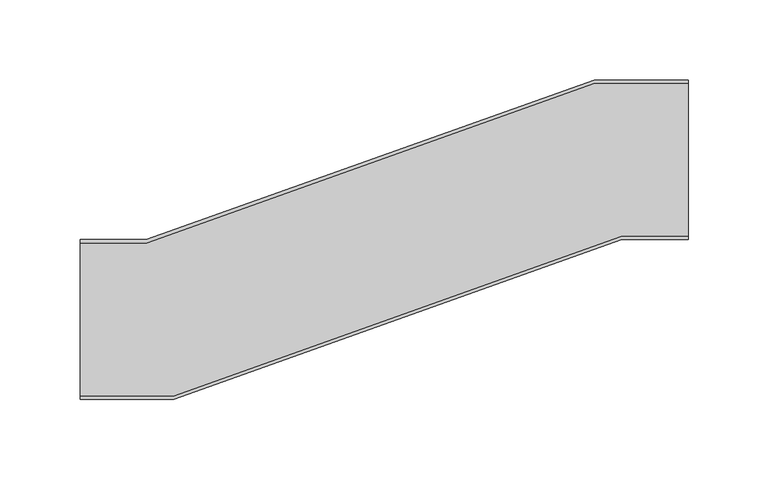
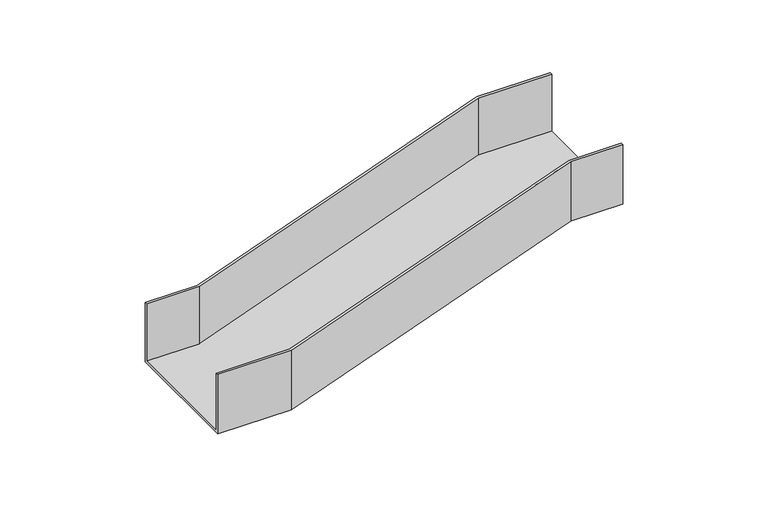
"""IFC4 building model written with IfcOpenShell, lengths in millimetres: cable carrier fitting geometry, BAKS_Bypass_horizontal_left_OPZL : OPZLCH50."""

from ifc_helpers import new_model, si_unit, origin, place, context, project, spatial, faceted_brep, source, transform, mapped, element, save


def cable_carrier_fitting_37f5b24e(model_context):
    return source(origin(), model_context, "Body", "Brep", [
        faceted_brep([(-190.0, -2.0, 2.0), (-190.0, -2.0, 50.0), (-190.0, 0.0, 50.0), (-190.0, 0.0, 0.0), (-190.0, -100.0, 0.0), (-190.0, -100.0, 50.0), (-190.0, -98.0, 50.0), (-190.0, -98.0, 2.0), (-148.31426, -2.0, 2.0), (-148.31426, -2.0, 50.0), (131.68574, 98.0, 50.0), (190.0, 98.0, 50.0), (190.0, 100.0, 50.0), (131.3393125, 100.0, 50.0), (-148.6606875, 0.0, 50.0), (-148.6606875, 0.0, 0.0), (131.3393125, 100.0, 0.0), (190.0, 100.0, 0.0), (190.0, 0.0, 0.0), (148.6606875, 0.0, 0.0), (-131.3393125, -100.0, 0.0), (-131.3393125, -100.0, 50.0), (148.6606875, 0.0, 50.0), (190.0, 0.0, 50.0), (190.0, 2.0, 50.0), (148.31426, 2.0, 50.0), (-131.68574, -98.0, 50.0), (-131.68574, -98.0, 2.0), (148.31426, 2.0, 2.0), (190.0, 2.0, 2.0), (190.0, 98.0, 2.0), (131.68574, 98.0, 2.0)], [[[0, 1, 2, 3, 4, 5, 6, 7]], [[1, 0, 8, 9]], [[2, 1, 9, 10, 11, 12, 13, 14]], [[3, 2, 14, 15]], [[4, 3, 15, 16, 17, 18, 19, 20]], [[5, 4, 20, 21]], [[6, 5, 21, 22, 23, 24, 25, 26]], [[7, 6, 26, 27]], [[0, 7, 27, 28, 29, 30, 31, 8]], [[9, 8, 31, 10]], [[15, 14, 13, 16]], [[21, 20, 19, 22]], [[27, 26, 25, 28]], [[30, 29, 24, 23, 18, 17, 12, 11]], [[10, 31, 30, 11]], [[16, 13, 12, 17]], [[22, 19, 18, 23]], [[28, 25, 24, 29]]]),
    ])


if __name__ == "__main__":
    model = new_model("IFC4")
    model_context = context("Model", 3, world=origin())
    ifc_project = project(units=[si_unit("LENGTHUNIT", "METRE", prefix="MILLI")], contexts=[model_context])
    site = spatial("IfcSite", under=ifc_project)
    building = spatial("IfcBuilding", under=site)
    placement = place(None, origin())
    cable_carrier_fitting_shape = cable_carrier_fitting_37f5b24e(model_context)
    element("IfcCableCarrierFitting", 1, ObjectType="BAKS_Bypass_horizontal_left_OPZL : OPZLCH50", at=placement, inside=building, context=model_context, shape_type="MappedRepresentation", body=[
        mapped(cable_carrier_fitting_shape, transform((0.0, 0.0, 0.0), x_axis=(1.0, 0.0, 0.0), y_axis=(0.0, 1.0, 0.0), z_axis=(0.0, 0.0, 1.0))),
    ])
    save(model, "model.ifc")
